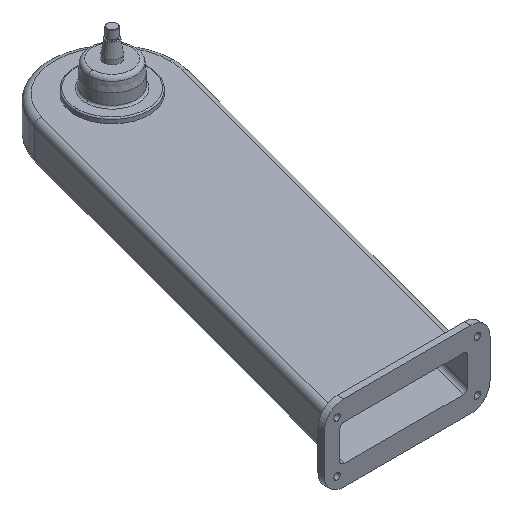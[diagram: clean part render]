
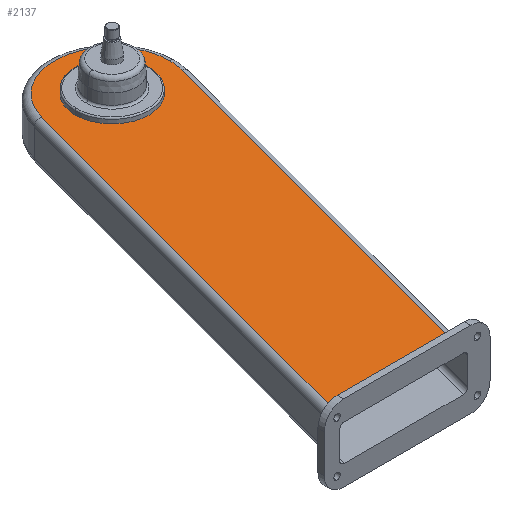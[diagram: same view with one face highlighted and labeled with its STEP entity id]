
A CAD part, isometric view. The second image highlights one B-rep face of the part: STEP entity #2137.
In plain terms, the highlighted planar face has unit normal (0, 0, 1).
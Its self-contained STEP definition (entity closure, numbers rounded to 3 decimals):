
#18 = CARTESIAN_POINT ( 'NONE',  ( 0., 0., 31.25 ) ) ;
#39 = AXIS2_PLACEMENT_3D ( 'NONE', #18, #1416, #213 ) ;
#173 = ORIENTED_EDGE ( 'NONE', *, *, #1191, .T. ) ;
#213 = DIRECTION ( 'NONE',  ( 1., 0., 0. ) ) ;
#236 = ORIENTED_EDGE ( 'NONE', *, *, #1058, .T. ) ;
#317 = CARTESIAN_POINT ( 'NONE',  ( 0., 0., 31.25 ) ) ;
#336 = ORIENTED_EDGE ( 'NONE', *, *, #930, .T. ) ;
#404 = CARTESIAN_POINT ( 'NONE',  ( -255.284, -605., 31.25 ) ) ;
#424 = ORIENTED_EDGE ( 'NONE', *, *, #1812, .T. ) ;
#450 = DIRECTION ( 'NONE',  ( -0.259, -0.966, 0. ) ) ;
#487 = ORIENTED_EDGE ( 'NONE', *, *, #791, .T. ) ;
#520 = DIRECTION ( 'NONE',  ( 1., 0., 0. ) ) ;
#533 = LINE ( 'NONE', #2339, #2115 ) ;
#540 = DIRECTION ( 'NONE',  ( 1., 0., 0. ) ) ;
#562 = ORIENTED_EDGE ( 'NONE', *, *, #2375, .F. ) ;
#597 = AXIS2_PLACEMENT_3D ( 'NONE', #859, #2250, #1057 ) ;
#616 = ORIENTED_EDGE ( 'NONE', *, *, #656, .F. ) ;
#656 = EDGE_CURVE ( 'NONE', #2074, #1675, #1000, .T. ) ;
#669 = CARTESIAN_POINT ( 'NONE',  ( 0., 0., 31.25 ) ) ;
#753 = CARTESIAN_POINT ( 'NONE',  ( 86.933, -23.294, 31.25 ) ) ;
#791 = EDGE_CURVE ( 'NONE', #1620, #2428, #1841, .T. ) ;
#832 = LINE ( 'NONE', #1652, #1897 ) ;
#859 = CARTESIAN_POINT ( 'NONE',  ( 0., 0., 31.25 ) ) ;
#874 = DIRECTION ( 'NONE',  ( 1., 0., 0. ) ) ;
#930 = EDGE_CURVE ( 'NONE', #1689, #1561, #533, .T. ) ;
#990 = CIRCLE ( 'NONE', #597, 90. ) ;
#1000 = CIRCLE ( 'NONE', #2177, 58. ) ;
#1003 = CARTESIAN_POINT ( 'NONE',  ( 58., 0., 31.25 ) ) ;
#1057 = DIRECTION ( 'NONE',  ( 1., 0., 0. ) ) ;
#1058 = EDGE_CURVE ( 'NONE', #1086, #1689, #1804, .T. ) ;
#1086 = VERTEX_POINT ( 'NONE', #404 ) ;
#1095 = CARTESIAN_POINT ( 'NONE',  ( -58., 0., 31.25 ) ) ;
#1191 = EDGE_CURVE ( 'NONE', #2428, #1086, #832, .T. ) ;
#1195 = AXIS2_PLACEMENT_3D ( 'NONE', #317, #1721, #520 ) ;
#1326 = PLANE ( 'NONE',  #2547 ) ;
#1416 = DIRECTION ( 'NONE',  ( 0., 0., 1. ) ) ;
#1521 = DIRECTION ( 'NONE',  ( 0., 0., 1. ) ) ;
#1535 = CARTESIAN_POINT ( 'NONE',  ( 0., 0., 31.25 ) ) ;
#1561 = VERTEX_POINT ( 'NONE', #753 ) ;
#1620 = VERTEX_POINT ( 'NONE', #2366 ) ;
#1640 = CIRCLE ( 'NONE', #39, 58. ) ;
#1652 = CARTESIAN_POINT ( 'NONE',  ( -261.337, -627.588, 31.25 ) ) ;
#1675 = VERTEX_POINT ( 'NONE', #1003 ) ;
#1689 = VERTEX_POINT ( 'NONE', #2582 ) ;
#1721 = DIRECTION ( 'NONE',  ( 0., 0., 1. ) ) ;
#1792 = EDGE_LOOP ( 'NONE', ( #562, #616 ) ) ;
#1804 = LINE ( 'NONE', #2371, #2268 ) ;
#1812 = EDGE_CURVE ( 'NONE', #1561, #1620, #990, .T. ) ;
#1841 = CIRCLE ( 'NONE', #1195, 90. ) ;
#1897 = VECTOR ( 'NONE', #450, 1000. ) ;
#1990 = FACE_OUTER_BOUND ( 'NONE', #2387, .T. ) ;
#2019 = CARTESIAN_POINT ( 'NONE',  ( -86.933, 23.294, 31.25 ) ) ;
#2049 = FACE_BOUND ( 'NONE', #1792, .T. ) ;
#2060 = DIRECTION ( 'NONE',  ( 0., 0., 1. ) ) ;
#2074 = VERTEX_POINT ( 'NONE', #1095 ) ;
#2115 = VECTOR ( 'NONE', #2328, 1000. ) ;
#2137 = ADVANCED_FACE ( 'NONE', ( #1990, #2049 ), #1326, .T. ) ;
#2177 = AXIS2_PLACEMENT_3D ( 'NONE', #669, #2060, #874 ) ;
#2250 = DIRECTION ( 'NONE',  ( 0., 0., 1. ) ) ;
#2268 = VECTOR ( 'NONE', #2383, 1000. ) ;
#2328 = DIRECTION ( 'NONE',  ( 0.259, 0.966, 0. ) ) ;
#2339 = CARTESIAN_POINT ( 'NONE',  ( 86.933, -23.294, 31.25 ) ) ;
#2366 = CARTESIAN_POINT ( 'NONE',  ( 90., 0., 31.25 ) ) ;
#2371 = CARTESIAN_POINT ( 'NONE',  ( 0., -605., 31.25 ) ) ;
#2375 = EDGE_CURVE ( 'NONE', #1675, #2074, #1640, .T. ) ;
#2383 = DIRECTION ( 'NONE',  ( 1., 0., 0. ) ) ;
#2387 = EDGE_LOOP ( 'NONE', ( #173, #236, #336, #424, #487 ) ) ;
#2428 = VERTEX_POINT ( 'NONE', #2019 ) ;
#2547 = AXIS2_PLACEMENT_3D ( 'NONE', #1535, #1521, #540 ) ;
#2582 = CARTESIAN_POINT ( 'NONE',  ( -68.934, -605., 31.25 ) ) ;
